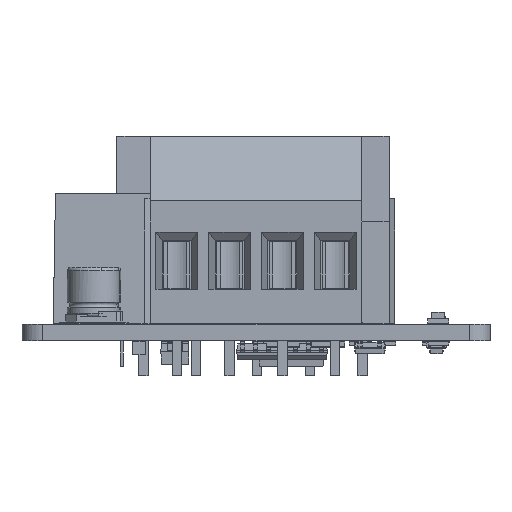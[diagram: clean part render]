
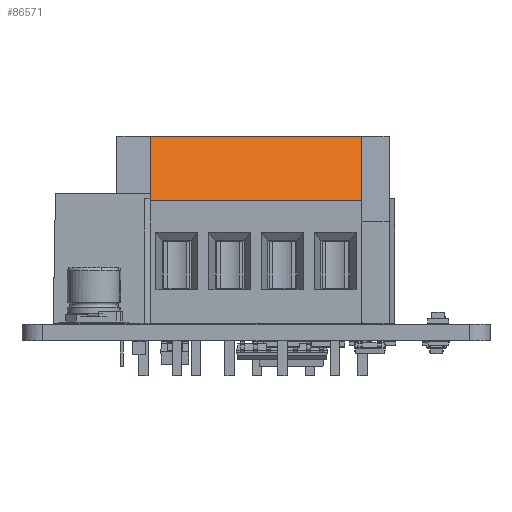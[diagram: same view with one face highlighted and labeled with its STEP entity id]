
A CAD part, left-side view. The second image highlights one B-rep face of the part: STEP entity #86571.
In plain terms, the highlighted planar face has unit normal (-0.917, 0, 0.399) as drawn and (0, -0.917, 0.399) by its records, which use the part's own axes.
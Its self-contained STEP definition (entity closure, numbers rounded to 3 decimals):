
#86236 = EDGE_CURVE('',#86237,#86239,#86241,.T.);
#86237 = VERTEX_POINT('',#86238);
#86238 = CARTESIAN_POINT('',(-2.54,-2.283,18.));
#86239 = VERTEX_POINT('',#86240);
#86240 = CARTESIAN_POINT('',(-2.54,-4.983,11.8));
#86241 = SURFACE_CURVE('',#86242,(#86246,#86258),.PCURVE_S1.);
#86242 = LINE('',#86243,#86244);
#86243 = CARTESIAN_POINT('',(-2.54,-2.283,18.));
#86244 = VECTOR('',#86245,1.);
#86245 = DIRECTION('',(0.,-0.399,-0.917));
#86246 = PCURVE('',#86247,#86252);
#86247 = PLANE('',#86248);
#86248 = AXIS2_PLACEMENT_3D('',#86249,#86250,#86251);
#86249 = CARTESIAN_POINT('',(-2.54,0.317,9.));
#86250 = DIRECTION('',(1.,0.,0.));
#86251 = DIRECTION('',(0.,0.,1.));
#86252 = DEFINITIONAL_REPRESENTATION('',(#86253),#86257);
#86253 = LINE('',#86254,#86255);
#86254 = CARTESIAN_POINT('',(9.,2.6));
#86255 = VECTOR('',#86256,1.);
#86256 = DIRECTION('',(-0.917,0.399));
#86257 = ( GEOMETRIC_REPRESENTATION_CONTEXT(2) 
PARAMETRIC_REPRESENTATION_CONTEXT() REPRESENTATION_CONTEXT('2D SPACE',''
  ) );
#86258 = PCURVE('',#86259,#86264);
#86259 = PLANE('',#86260);
#86260 = AXIS2_PLACEMENT_3D('',#86261,#86262,#86263);
#86261 = CARTESIAN_POINT('',(-2.54,-2.283,18.));
#86262 = DIRECTION('',(0.,0.917,-0.399));
#86263 = DIRECTION('',(0.,-0.399,-0.917));
#86264 = DEFINITIONAL_REPRESENTATION('',(#86265),#86269);
#86265 = LINE('',#86266,#86267);
#86266 = CARTESIAN_POINT('',(0.,0.));
#86267 = VECTOR('',#86268,1.);
#86268 = DIRECTION('',(1.,0.));
#86269 = ( GEOMETRIC_REPRESENTATION_CONTEXT(2) 
PARAMETRIC_REPRESENTATION_CONTEXT() REPRESENTATION_CONTEXT('2D SPACE',''
  ) );
#86287 = PLANE('',#86288);
#86288 = AXIS2_PLACEMENT_3D('',#86289,#86290,#86291);
#86289 = CARTESIAN_POINT('',(-2.54,-4.983,11.8));
#86290 = DIRECTION('',(0.,0.,-1.));
#86291 = DIRECTION('',(0.,-1.,0.));
#86560 = PLANE('',#86561);
#86561 = AXIS2_PLACEMENT_3D('',#86562,#86563,#86564);
#86562 = CARTESIAN_POINT('',(-2.54,5.917,18.));
#86563 = DIRECTION('',(0.,0.,-1.));
#86564 = DIRECTION('',(0.,-1.,0.));
#86571 = ADVANCED_FACE('',(#86572),#86259,.F.);
#86572 = FACE_BOUND('',#86573,.F.);
#86573 = EDGE_LOOP('',(#86574,#86597,#86625,#86646));
#86574 = ORIENTED_EDGE('',*,*,#86575,.T.);
#86575 = EDGE_CURVE('',#86237,#86576,#86578,.T.);
#86576 = VERTEX_POINT('',#86577);
#86577 = CARTESIAN_POINT('',(17.78,-2.283,18.));
#86578 = SURFACE_CURVE('',#86579,(#86583,#86590),.PCURVE_S1.);
#86579 = LINE('',#86580,#86581);
#86580 = CARTESIAN_POINT('',(-2.54,-2.283,18.));
#86581 = VECTOR('',#86582,1.);
#86582 = DIRECTION('',(1.,0.,0.));
#86583 = PCURVE('',#86259,#86584);
#86584 = DEFINITIONAL_REPRESENTATION('',(#86585),#86589);
#86585 = LINE('',#86586,#86587);
#86586 = CARTESIAN_POINT('',(0.,0.));
#86587 = VECTOR('',#86588,1.);
#86588 = DIRECTION('',(0.,-1.));
#86589 = ( GEOMETRIC_REPRESENTATION_CONTEXT(2) 
PARAMETRIC_REPRESENTATION_CONTEXT() REPRESENTATION_CONTEXT('2D SPACE',''
  ) );
#86590 = PCURVE('',#86560,#86591);
#86591 = DEFINITIONAL_REPRESENTATION('',(#86592),#86596);
#86592 = LINE('',#86593,#86594);
#86593 = CARTESIAN_POINT('',(8.2,0.));
#86594 = VECTOR('',#86595,1.);
#86595 = DIRECTION('',(0.,-1.));
#86596 = ( GEOMETRIC_REPRESENTATION_CONTEXT(2) 
PARAMETRIC_REPRESENTATION_CONTEXT() REPRESENTATION_CONTEXT('2D SPACE',''
  ) );
#86597 = ORIENTED_EDGE('',*,*,#86598,.T.);
#86598 = EDGE_CURVE('',#86576,#86599,#86601,.T.);
#86599 = VERTEX_POINT('',#86600);
#86600 = CARTESIAN_POINT('',(17.78,-4.983,11.8));
#86601 = SURFACE_CURVE('',#86602,(#86606,#86613),.PCURVE_S1.);
#86602 = LINE('',#86603,#86604);
#86603 = CARTESIAN_POINT('',(17.78,-2.283,18.));
#86604 = VECTOR('',#86605,1.);
#86605 = DIRECTION('',(0.,-0.399,-0.917));
#86606 = PCURVE('',#86259,#86607);
#86607 = DEFINITIONAL_REPRESENTATION('',(#86608),#86612);
#86608 = LINE('',#86609,#86610);
#86609 = CARTESIAN_POINT('',(0.,-20.32));
#86610 = VECTOR('',#86611,1.);
#86611 = DIRECTION('',(1.,0.));
#86612 = ( GEOMETRIC_REPRESENTATION_CONTEXT(2) 
PARAMETRIC_REPRESENTATION_CONTEXT() REPRESENTATION_CONTEXT('2D SPACE',''
  ) );
#86613 = PCURVE('',#86614,#86619);
#86614 = PLANE('',#86615);
#86615 = AXIS2_PLACEMENT_3D('',#86616,#86617,#86618);
#86616 = CARTESIAN_POINT('',(17.78,0.317,9.));
#86617 = DIRECTION('',(1.,0.,0.));
#86618 = DIRECTION('',(0.,0.,1.));
#86619 = DEFINITIONAL_REPRESENTATION('',(#86620),#86624);
#86620 = LINE('',#86621,#86622);
#86621 = CARTESIAN_POINT('',(9.,2.6));
#86622 = VECTOR('',#86623,1.);
#86623 = DIRECTION('',(-0.917,0.399));
#86624 = ( GEOMETRIC_REPRESENTATION_CONTEXT(2) 
PARAMETRIC_REPRESENTATION_CONTEXT() REPRESENTATION_CONTEXT('2D SPACE',''
  ) );
#86625 = ORIENTED_EDGE('',*,*,#86626,.F.);
#86626 = EDGE_CURVE('',#86239,#86599,#86627,.T.);
#86627 = SURFACE_CURVE('',#86628,(#86632,#86639),.PCURVE_S1.);
#86628 = LINE('',#86629,#86630);
#86629 = CARTESIAN_POINT('',(-2.54,-4.983,11.8));
#86630 = VECTOR('',#86631,1.);
#86631 = DIRECTION('',(1.,0.,0.));
#86632 = PCURVE('',#86259,#86633);
#86633 = DEFINITIONAL_REPRESENTATION('',(#86634),#86638);
#86634 = LINE('',#86635,#86636);
#86635 = CARTESIAN_POINT('',(6.762,0.));
#86636 = VECTOR('',#86637,1.);
#86637 = DIRECTION('',(0.,-1.));
#86638 = ( GEOMETRIC_REPRESENTATION_CONTEXT(2) 
PARAMETRIC_REPRESENTATION_CONTEXT() REPRESENTATION_CONTEXT('2D SPACE',''
  ) );
#86639 = PCURVE('',#86287,#86640);
#86640 = DEFINITIONAL_REPRESENTATION('',(#86641),#86645);
#86641 = LINE('',#86642,#86643);
#86642 = CARTESIAN_POINT('',(0.,0.));
#86643 = VECTOR('',#86644,1.);
#86644 = DIRECTION('',(0.,-1.));
#86645 = ( GEOMETRIC_REPRESENTATION_CONTEXT(2) 
PARAMETRIC_REPRESENTATION_CONTEXT() REPRESENTATION_CONTEXT('2D SPACE',''
  ) );
#86646 = ORIENTED_EDGE('',*,*,#86236,.F.);
